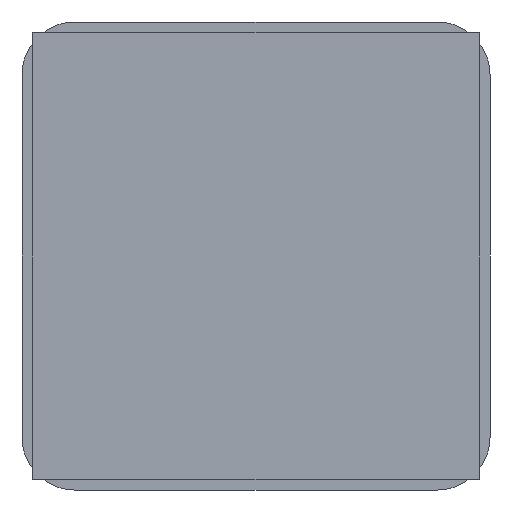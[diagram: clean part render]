
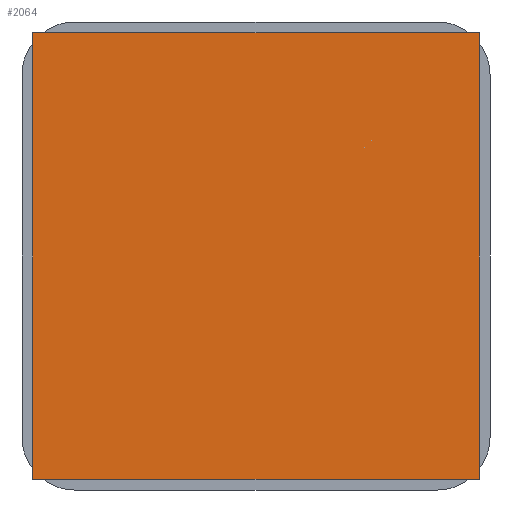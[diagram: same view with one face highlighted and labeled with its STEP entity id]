
A CAD part, front view. The second image highlights one B-rep face of the part: STEP entity #2064.
In plain terms, the highlighted planar face has unit normal (0, -1, 0).
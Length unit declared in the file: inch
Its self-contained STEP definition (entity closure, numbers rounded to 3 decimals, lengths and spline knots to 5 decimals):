
#196 = EDGE_CURVE ( 'NONE', #1767, #4688, #8219, .T. ) ;
#643 = CARTESIAN_POINT ( 'NONE',  ( -0.5, -0.005, 0.5 ) ) ;
#737 = DIRECTION ( 'NONE',  ( 0., 0., -1. ) ) ;
#1069 = VECTOR ( 'NONE', #1669, 39.37008 ) ;
#1464 = ORIENTED_EDGE ( 'NONE', *, *, #5579, .F. ) ;
#1509 = DIRECTION ( 'NONE',  ( 0., 1., 0. ) ) ;
#1669 = DIRECTION ( 'NONE',  ( -1., 0., 0. ) ) ;
#1767 = VERTEX_POINT ( 'NONE', #2833 ) ;
#1852 = VERTEX_POINT ( 'NONE', #4062 ) ;
#1905 = VECTOR ( 'NONE', #7295, 39.37008 ) ;
#1958 = CARTESIAN_POINT ( 'NONE',  ( -0.5, -0.005, -0.5 ) ) ;
#2064 = ADVANCED_FACE ( 'NONE', ( #2151 ), #6797, .F. ) ;
#2151 = FACE_OUTER_BOUND ( 'NONE', #3176, .T. ) ;
#2212 = CARTESIAN_POINT ( 'NONE',  ( 0.5, -0.005, -0.5 ) ) ;
#2258 = ORIENTED_EDGE ( 'NONE', *, *, #196, .F. ) ;
#2833 = CARTESIAN_POINT ( 'NONE',  ( 0.5, -0.005, 0.5 ) ) ;
#3000 = CARTESIAN_POINT ( 'NONE',  ( 0.5, -0.005, -0.5 ) ) ;
#3176 = EDGE_LOOP ( 'NONE', ( #1464, #6576, #2258, #5732 ) ) ;
#4062 = CARTESIAN_POINT ( 'NONE',  ( -0.5, -0.005, 0.5 ) ) ;
#4542 = LINE ( 'NONE', #4587, #1905 ) ;
#4568 = DIRECTION ( 'NONE',  ( 1., 0., 0. ) ) ;
#4587 = CARTESIAN_POINT ( 'NONE',  ( -0.5, -0.005, -0.5 ) ) ;
#4688 = VERTEX_POINT ( 'NONE', #3000 ) ;
#4868 = DIRECTION ( 'NONE',  ( 0., 0., 1. ) ) ;
#4950 = EDGE_CURVE ( 'NONE', #1852, #1767, #5276, .T. ) ;
#5036 = EDGE_CURVE ( 'NONE', #4688, #7490, #7521, .T. ) ;
#5276 = LINE ( 'NONE', #643, #7727 ) ;
#5579 = EDGE_CURVE ( 'NONE', #7490, #1852, #4542, .T. ) ;
#5732 = ORIENTED_EDGE ( 'NONE', *, *, #4950, .F. ) ;
#6192 = CARTESIAN_POINT ( 'NONE',  ( -0.5, -0.005, -0.5 ) ) ;
#6576 = ORIENTED_EDGE ( 'NONE', *, *, #5036, .F. ) ;
#6797 = PLANE ( 'NONE',  #6961 ) ;
#6961 = AXIS2_PLACEMENT_3D ( 'NONE', #8327, #1509, #4868 ) ;
#7024 = VECTOR ( 'NONE', #737, 39.37008 ) ;
#7295 = DIRECTION ( 'NONE',  ( 0., 0., 1. ) ) ;
#7490 = VERTEX_POINT ( 'NONE', #1958 ) ;
#7521 = LINE ( 'NONE', #6192, #1069 ) ;
#7727 = VECTOR ( 'NONE', #4568, 39.37008 ) ;
#8219 = LINE ( 'NONE', #2212, #7024 ) ;
#8327 = CARTESIAN_POINT ( 'NONE',  ( -0.5, -0.005, 0.5 ) ) ;
